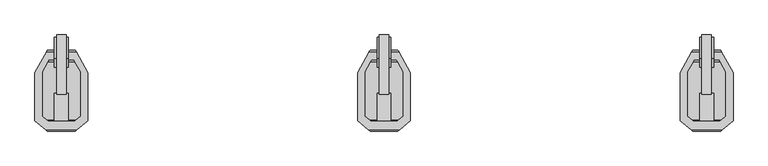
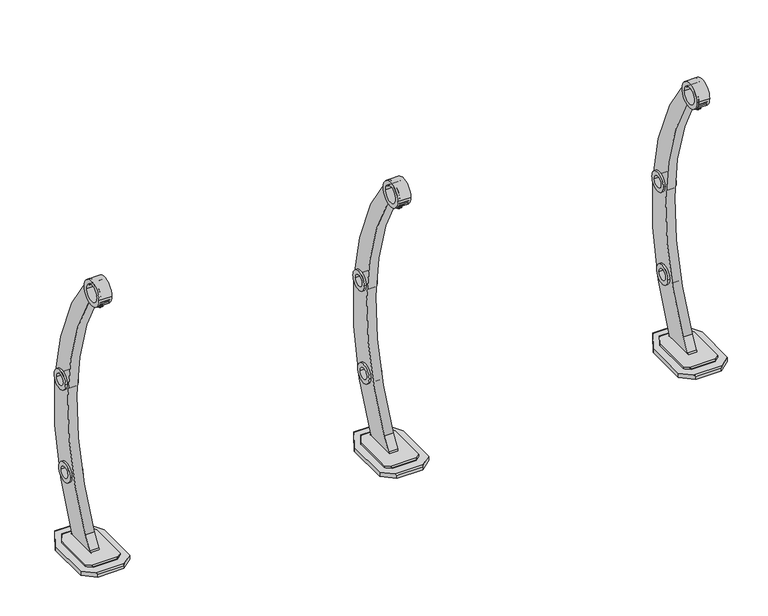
"""IFC4 building model written with IfcOpenShell, lengths in millimetres: railing geometry, Valla Luna-VVL02-1000mm."""

from ifc_helpers import new_model, si_unit, point, frame, frame_2d, origin, place, context, project, spatial, polyline, circle_curve, ellipse_curve, trimmed, segment, composite_curve, outline, extrude, source, transform, mapped, element, save
from ifc_brep_helpers import plane_surface, cylinder_surface, advanced_brep


def railing_890ddbbc(model_context):
    return source(origin(), model_context, "Body", "SolidModel", [
        advanced_brep(
        [(-3962.1742824, -59.8778291, 14.203599), (-3962.1742824, 76.8213068, 14.203599), (-3962.1742824, 76.8213068, 20.5949777), (-3962.1742824, -59.8778291, 20.5949777), (-4078.1742824, -59.8778291, 20.5949777), (-4078.1742824, 76.8213068, 20.5949777), (-4078.1742824, 76.8213068, 14.203599), (-4078.1742824, -59.8778291, 14.203599), (-3980.3520143, -75.1307572, 16.3372695), (-4059.9965506, -75.1307572, 16.3372695), (-4059.9965506, -75.1307572, 14.203599), (-3980.3520143, -75.1307572, 14.203599), (-4058.4734613, 112.362529, 14.203599), (-3981.8751036, 112.362529, 14.203599), (-4058.4734613, 112.362529, 16.3372695), (-3981.8751036, 112.362529, 16.3372695), (-4060.8335475, 108.1048208, 20.5949777), (-3979.5150174, 108.1048208, 20.5949777), (-4065.0706896, -70.873049, 20.5949777), (-3975.2778752, -70.873049, 20.5949777)],
        [
            (0, 1),
            (1, 2),
            (2, 3),
            (3, 0),
            (4, 5),
            (5, 6),
            (6, 7),
            (7, 4),
            (8, 9),
            (9, 10),
            (10, 11),
            (11, 8),
            (0, 11),
            (10, 7),
            (6, 12),
            (12, 13),
            (13, 1),
            (12, 14),
            (14, 15),
            (15, 13),
            (14, 16, ellipse_curve(frame((-4060.8335475, 108.1048208, 16.3372695), z_axis=(0.874619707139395, -0.4848096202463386, 0.0), x_axis=(0.4848096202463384, 0.8746197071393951, 0.0)), 4.868068, 4.2577082)),
            (16, 17),
            (17, 15, ellipse_curve(frame((-3979.5150174, 108.1048208, 16.3372695), z_axis=(-0.8746197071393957, -0.4848096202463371, 0.0), x_axis=(0.4848096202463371, -0.8746197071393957, 0.0)), 4.868068, 4.2577082)),
            (2, 17),
            (16, 5),
            (4, 18),
            (18, 19),
            (19, 3),
            (8, 19, ellipse_curve(frame((-3975.2778752, -70.873049, 16.3372695), z_axis=(-0.6427876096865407, 0.766044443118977, 0.0), x_axis=(0.7660444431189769, 0.6427876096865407, 0.0)), 6.6238181, 4.2577082)),
            (18, 9, ellipse_curve(frame((-4065.0706896, -70.873049, 16.3372695), z_axis=(0.6427876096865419, 0.7660444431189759, 0.0), x_axis=(0.7660444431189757, -0.6427876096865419, 0.0)), 6.6238181, 4.2577082)),
        ],
        [
            plane_surface(frame((-3962.1742824, -75.1307572, 14.203599), z_axis=(1.0, 0.0, 0.0), x_axis=(0.0, 0.0, -1.0))),
            plane_surface(frame((-4078.1742824, -75.1307572, 14.203599), z_axis=(-1.0, 0.0, 0.0), x_axis=(0.0, 0.0, 1.0))),
            plane_surface(frame((-3962.1742824, -75.1307572, 16.3372695), z_axis=(0.0, -1.0, 0.0), x_axis=(-1.0, 0.0, 0.0))),
            plane_surface(frame((-3962.1742824, -75.1307572, 14.203599), z_axis=(0.0, 0.0, -1.0), x_axis=(-1.0, 0.0, 0.0))),
            plane_surface(frame((-3962.1742824, 112.362529, 14.203599), z_axis=(0.0, 1.0, 0.0), x_axis=(-1.0, 0.0, 0.0))),
            cylinder_surface(frame((-4078.1742824, 108.1048208, 16.3372695), z_axis=(1.0, 0.0, 0.0), x_axis=(0.0, 1.0, 0.0)), 4.2577082),
            plane_surface(frame((-3962.1742824, 108.1048208, 20.5949777), z_axis=(0.0, 0.0, 1.0), x_axis=(-1.0, 0.0, 0.0))),
            cylinder_surface(frame((-4078.1742824, -70.873049, 16.3372695), z_axis=(1.0, 0.0, 0.0), x_axis=(0.0, 1.0, 0.0)), 4.2577082),
            plane_surface(frame((-4078.1742824, 76.8213068, 26.9863564), z_axis=(-0.874619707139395, 0.4848096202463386, 0.0), x_axis=(0.0, 0.0, -1.0))),
            plane_surface(frame((-3981.8751036, 112.362529, 26.9863564), z_axis=(0.8746197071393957, 0.4848096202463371, 0.0), x_axis=(0.0, 0.0, -1.0))),
            plane_surface(frame((-3962.1742824, -59.8778291, 26.9863564), z_axis=(0.6427876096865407, -0.766044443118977, 0.0), x_axis=(0.0, 0.0, -1.0))),
            plane_surface(frame((-4059.9965506, -75.1307572, 26.9863564), z_axis=(-0.6427876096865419, -0.7660444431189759, 0.0), x_axis=(0.0, 0.0, -1.0))),
        ],
        [
            (0, [[1, 2, 3, 4]]),
            (1, [[5, 6, 7, 8]]),
            (2, [[9, 10, 11, 12]]),
            (3, [[-1, 13, -11, 14, -7, 15, 16, 17]]),
            (4, [[-16, 18, 19, 20]]),
            (5, [[-19, 21, 22, 23]]),
            (6, [[-3, 24, -22, 25, -5, 26, 27, 28]]),
            (7, [[-9, 29, -27, 30]]),
            (8, [[-6, -25, -21, -18, -15]]),
            (9, [[-2, -17, -20, -23, -24]]),
            (10, [[-4, -28, -29, -12, -13]]),
            (11, [[-8, -14, -10, -30, -26]]),
        ],
    ),
        advanced_brep(
        [(-3938.1742824, 73.6162264, 14.203599), (-3938.1742824, -73.8212018, 14.203599), (-3938.1742824, -73.8212018, 0.0), (-3938.1742824, 73.6162264, 0.0), (-4102.1742824, 73.6162264, 0.0), (-4102.1742824, -73.8212018, 0.0), (-4102.1742824, -73.8212018, 14.203599), (-4102.1742824, 73.6162264, 14.203599), (-3976.975916, 143.6162264, 0.0), (-4063.3726488, 143.6162264, 0.0), (-4063.3726488, 143.6162264, 9.9410744), (-3976.975916, 143.6162264, 9.9410744), (-4065.7354048, 139.3537018, 14.203599), (-3974.6131601, 139.3537018, 14.203599), (-4068.4525278, -102.1171136, 14.203599), (-3971.896037, -102.1171136, 14.203599), (-4063.3726488, -106.3796382, 9.9410744), (-3976.975916, -106.3796382, 9.9410744), (-4063.3726488, -106.3796382, 0.0), (-3976.975916, -106.3796382, 0.0)],
        [
            (0, 1),
            (1, 2),
            (2, 3),
            (3, 0),
            (4, 5),
            (5, 6),
            (6, 7),
            (7, 4),
            (8, 9),
            (9, 10),
            (10, 11),
            (11, 8),
            (10, 12, ellipse_curve(frame((-4065.7354048, 139.3537018, 9.9410744), z_axis=(0.874619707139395, -0.4848096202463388, 0.0), x_axis=(0.4848096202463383, 0.8746197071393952, 0.0)), 4.8735749, 4.2625246)),
            (12, 13),
            (13, 11, ellipse_curve(frame((-3974.6131601, 139.3537018, 9.9410744), z_axis=(-0.8746197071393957, -0.4848096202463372, 0.0), x_axis=(0.4848096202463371, -0.8746197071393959, 0.0)), 4.8735749, 4.2625246)),
            (0, 13),
            (12, 7),
            (6, 14),
            (14, 15),
            (15, 1),
            (14, 16, ellipse_curve(frame((-4068.4525278, -102.1171136, 9.9410744), z_axis=(0.6427876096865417, 0.766044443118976, 0.0), x_axis=(0.766044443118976, -0.6427876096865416, 0.0)), 6.6313111, 4.2625246)),
            (16, 17),
            (17, 15, ellipse_curve(frame((-3971.896037, -102.1171136, 9.9410744), z_axis=(-0.6427876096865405, 0.7660444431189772, 0.0), x_axis=(0.766044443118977, 0.6427876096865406, 0.0)), 6.6313111, 4.2625246)),
            (16, 18),
            (18, 19),
            (19, 17),
            (2, 19),
            (18, 5),
            (4, 9),
            (8, 3),
        ],
        [
            plane_surface(frame((-3938.1742824, 143.6162264, 9.9410744), z_axis=(1.0, 0.0, 0.0), x_axis=(0.0, 0.0, 1.0))),
            plane_surface(frame((-4102.1742824, 143.6162264, 9.9410744), z_axis=(-1.0, 0.0, 0.0), x_axis=(0.0, 0.0, -1.0))),
            plane_surface(frame((-3938.1742824, 143.6162264, 0.0), z_axis=(0.0, 1.0, 0.0), x_axis=(-1.0, 0.0, 0.0))),
            cylinder_surface(frame((-4102.1742824, 139.3537018, 9.9410744), z_axis=(1.0, 0.0, 0.0), x_axis=(0.0, 1.0, 0.0)), 4.2625246),
            plane_surface(frame((-3938.1742824, 139.3537018, 14.203599), z_axis=(0.0, 0.0, 1.0), x_axis=(-1.0, 0.0, 0.0))),
            cylinder_surface(frame((-4102.1742824, -102.1171136, 9.9410744), z_axis=(1.0, 0.0, 0.0), x_axis=(0.0, 1.0, 0.0)), 4.2625246),
            plane_surface(frame((-3938.1742824, -106.3796382, 9.9410744), z_axis=(0.0, -1.0, 0.0), x_axis=(-1.0, 0.0, 0.0))),
            plane_surface(frame((-3938.1742824, -106.3796382, 0.0), z_axis=(0.0, 0.0, -1.0), x_axis=(-1.0, 0.0, 0.0))),
            plane_surface(frame((-4102.1742824, 73.6162264, 56.1063833), z_axis=(-0.874619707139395, 0.4848096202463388, 0.0), x_axis=(0.0, 0.0, -1.0))),
            plane_surface(frame((-3976.975916, 143.6162264, 56.1063833), z_axis=(0.8746197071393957, 0.4848096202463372, 0.0), x_axis=(0.0, 0.0, -1.0))),
            plane_surface(frame((-4063.3726488, -106.3796382, 56.1063833), z_axis=(-0.6427876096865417, -0.766044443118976, 0.0), x_axis=(0.0, 0.0, -1.0))),
            plane_surface(frame((-3938.1742824, -73.8212018, 56.1063833), z_axis=(0.6427876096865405, -0.7660444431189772, 0.0), x_axis=(0.0, 0.0, -1.0))),
        ],
        [
            (0, [[1, 2, 3, 4]]),
            (1, [[5, 6, 7, 8]]),
            (2, [[9, 10, 11, 12]]),
            (3, [[-11, 13, 14, 15]]),
            (4, [[-1, 16, -14, 17, -7, 18, 19, 20]]),
            (5, [[-19, 21, 22, 23]]),
            (6, [[-22, 24, 25, 26]]),
            (7, [[-3, 27, -25, 28, -5, 29, -9, 30]]),
            (8, [[-8, -17, -13, -10, -29]]),
            (9, [[-4, -30, -12, -15, -16]]),
            (10, [[-6, -28, -24, -21, -18]]),
            (11, [[-2, -20, -23, -26, -27]]),
        ],
    ),
        extrude(outline(composite_curve([segment(trimmed(circle_curve(frame_2d((-32.5175521, 952.3924915)), 42.6132051), [point((-75.1307572, 952.3924915))], [point((10.0956531, 952.3924915))], False, "CARTESIAN"), True, "CONTINUOUS"), segment(trimmed(circle_curve(frame_2d((-32.5175521, 952.3924915)), 42.6132051), [point((10.0956531, 952.3924915))], [point((-75.1307572, 952.3924915))], False, "CARTESIAN"), True, "CONTINUOUS")], self_intersect=False), holes=[composite_curve([segment(trimmed(circle_curve(frame_2d((-32.5175521, 952.3924915)), 28.4096062), [point((-60.9271582, 952.3924915))], [point((-4.1079459, 952.3924915))], True, "CARTESIAN"), True, "CONTINUOUS"), segment(trimmed(circle_curve(frame_2d((-32.5175521, 952.3924915)), 28.4096062), [point((-4.1079459, 952.3924915))], [point((-60.9271582, 952.3924915))], True, "CARTESIAN"), True, "CONTINUOUS")], self_intersect=False)]), frame((-4041.7542824, 0.0, 0.0), z_axis=(1.0, 0.0, 0.0), x_axis=(0.0, 1.0, 0.0)), (0.0, 0.0, 1.0), 43.16),
        extrude(outline(composite_curve([segment(trimmed(circle_curve(frame_2d((-35.2003219, 907.5222066)), 2.3654817), [point((-35.415134, 909.8779144))], [point((-37.4829394, 908.1428196))], True, "CARTESIAN"), True, "CONTINUOUS"), segment(polyline([(-37.4829394, 908.1428196), (-38.2257606, 905.4107199)]), True, "CONTINUOUS"), segment(trimmed(circle_curve(frame_2d((-40.4091972, 906.4191341)), 2.4050561), [point((-38.2257606, 905.4107199))], [point((-41.0401931, 904.0983285))], False, "CARTESIAN"), True, "CONTINUOUS"), segment(polyline([(-41.0401931, 904.0983285), (-48.8524133, 906.2223662)]), True, "CONTINUOUS"), segment(trimmed(circle_curve(frame_2d((-48.2214175, 908.5431718)), 2.4050561), [point((-48.8524133, 906.2223662))], [point((-50.6148686, 908.7791518))], False, "CARTESIAN"), True, "CONTINUOUS"), segment(polyline([(-50.6148686, 908.7791518), (-49.8720473, 911.5112516)]), True, "CONTINUOUS"), segment(trimmed(circle_curve(frame_2d((-52.1546649, 912.1318646)), 2.3654817), [point((-49.8720473, 911.5112516))], [point((-50.3918957, 913.7092511))], True, "CARTESIAN"), True, "CONTINUOUS"), segment(trimmed(circle_curve(frame_2d((-32.5175521, 952.3924915)), 42.6132051), [point((-50.3918957, 913.7092511))], [point((-35.415134, 909.8779144))], True, "CARTESIAN"), True, "CONTINUOUS")], self_intersect=False)), frame((-4026.3942824, 0.0, 0.0), z_axis=(1.0, 0.0, 0.0), x_axis=(0.0, 1.0, 0.0)), (0.0, 0.0, 1.0), 12.4397),
        extrude(outline(composite_curve([segment(trimmed(circle_curve(frame_2d((151.7824529, 535.4983185)), 33.0237288), [point((118.7587241, 535.4983185))], [point((184.8061818, 535.4983185))], False, "CARTESIAN"), True, "CONTINUOUS"), segment(trimmed(circle_curve(frame_2d((151.7824529, 535.4983185)), 33.0237288), [point((184.8061818, 535.4983185))], [point((118.7587241, 535.4983185))], False, "CARTESIAN"), True, "CONTINUOUS")], self_intersect=False), holes=[composite_curve([segment(trimmed(circle_curve(frame_2d((151.7824529, 535.4983185)), 18.8201299), [point((132.9623231, 535.4983185))], [point((170.6025828, 535.4983185))], True, "CARTESIAN"), True, "CONTINUOUS"), segment(trimmed(circle_curve(frame_2d((151.7824529, 535.4983185)), 18.8201299), [point((170.6025828, 535.4983185))], [point((132.9623231, 535.4983185))], True, "CARTESIAN"), True, "CONTINUOUS")], self_intersect=False)]), frame((-4041.7542824, 0.0, 0.0), z_axis=(1.0, 0.0, 0.0), x_axis=(0.0, 1.0, 0.0)), (0.0, 0.0, 1.0), 43.16),
        extrude(outline(composite_curve([segment(trimmed(circle_curve(frame_2d((124.7936883, 223.0046918)), 33.0237288), [point((91.7699595, 223.0046918))], [point((157.8174172, 223.0046918))], False, "CARTESIAN"), True, "CONTINUOUS"), segment(trimmed(circle_curve(frame_2d((124.7936883, 223.0046918)), 33.0237288), [point((157.8174172, 223.0046918))], [point((91.7699595, 223.0046918))], False, "CARTESIAN"), True, "CONTINUOUS")], self_intersect=False), holes=[composite_curve([segment(trimmed(circle_curve(frame_2d((124.7936883, 223.0046918)), 18.8201299), [point((105.9735585, 223.0046918))], [point((143.6138182, 223.0046918))], True, "CARTESIAN"), True, "CONTINUOUS"), segment(trimmed(circle_curve(frame_2d((124.7936883, 223.0046918)), 18.8201299), [point((143.6138182, 223.0046918))], [point((105.9735585, 223.0046918))], True, "CARTESIAN"), True, "CONTINUOUS")], self_intersect=False)]), frame((-4041.7542824, 0.0, 0.0), z_axis=(1.0, 0.0, 0.0), x_axis=(0.0, 1.0, 0.0)), (0.0, 0.0, 1.0), 43.16),
        extrude(outline(composite_curve([segment(trimmed(circle_curve(frame_2d((-32.5175521, 951.7927114)), 42.6132051), [point((-19.2244118, 911.3059521))], [point((0.6146997, 978.5908296))], False, "CARTESIAN"), True, "CONTINUOUS"), segment(trimmed(circle_curve(frame_2d((-669.8242293, 431.6687279)), 865.2237531), [point((0.6146997, 978.5908296))], [point((94.6092344, 26.3865762))], False, "CARTESIAN"), True, "CONTINUOUS"), segment(trimmed(circle_curve(frame_2d((99.8588247, 25.1220185)), 5.3997504), [point((94.6092344, 26.3865762))], [point((98.1493714, 20.0))], True, "CARTESIAN"), True, "CONTINUOUS"), segment(polyline([(98.1493714, 20.0), (-18.2389933, 20.0)]), True, "CONTINUOUS"), segment(trimmed(circle_curve(frame_2d((-18.9534231, 30.8838265)), 10.9072494), [point((-18.2389933, 20.0))], [point((-9.7913121, 24.9657347))], True, "CARTESIAN"), True, "CONTINUOUS"), segment(trimmed(circle_curve(frame_2d((-548.3550434, 372.840762)), 641.1457926), [point((-9.7913121, 24.9657347))], [point((15.0710067, 66.868519))], True, "CARTESIAN"), True, "CONTINUOUS"), segment(trimmed(circle_curve(frame_2d((-721.6327305, 466.940356)), 838.3256355), [point((15.0710067, 66.868519))], [point((-7.3307436, 905.7598436))], True, "CARTESIAN"), True, "CONTINUOUS"), segment(trimmed(circle_curve(frame_2d((-16.9904255, 900.5706701)), 10.9652622), [point((-7.3307436, 905.7598436))], [point((-19.2244118, 911.3059521))], True, "CARTESIAN"), True, "CONTINUOUS")], self_intersect=False), holes=[composite_curve([segment(trimmed(circle_curve(frame_2d((-32.5175521, 951.7927114)), 28.4096062), [point((-60.9271582, 951.7927114))], [point((-4.1079459, 951.7927114))], True, "CARTESIAN"), True, "CONTINUOUS"), segment(trimmed(circle_curve(frame_2d((-32.5175521, 951.7927114)), 28.4096062), [point((-4.1079459, 951.7927114))], [point((-60.9271582, 951.7927114))], True, "CARTESIAN"), True, "CONTINUOUS")], self_intersect=False), composite_curve([segment(trimmed(circle_curve(frame_2d((151.7824529, 534.8985383)), 18.8201299), [point((132.9623231, 534.8985383))], [point((170.6025828, 534.8985383))], True, "CARTESIAN"), True, "CONTINUOUS"), segment(trimmed(circle_curve(frame_2d((151.7824529, 534.8985383)), 18.8201299), [point((170.6025828, 534.8985383))], [point((132.9623231, 534.8985383))], True, "CARTESIAN"), True, "CONTINUOUS")], self_intersect=False), composite_curve([segment(trimmed(circle_curve(frame_2d((124.7936883, 222.4049116)), 18.8201299), [point((105.9735585, 222.4049116))], [point((143.6138182, 222.4049116))], True, "CARTESIAN"), True, "CONTINUOUS"), segment(trimmed(circle_curve(frame_2d((124.7936883, 222.4049116)), 18.8201299), [point((143.6138182, 222.4049116))], [point((105.9735585, 222.4049116))], True, "CARTESIAN"), True, "CONTINUOUS")], self_intersect=False)]), frame((-4035.1742824, 0.0, 0.0), z_axis=(1.0, 0.0, 0.0), x_axis=(0.0, 1.0, 0.0)), (0.0, 0.0, 1.0), 30.0),
        advanced_brep(
        [(-4962.1742824, -59.8778291, 14.203599), (-4962.1742824, 76.8213068, 14.203599), (-4962.1742824, 76.8213068, 20.5949777), (-4962.1742824, -59.8778291, 20.5949777), (-5078.1742824, -59.8778291, 20.5949777), (-5078.1742824, 76.8213068, 20.5949777), (-5078.1742824, 76.8213068, 14.203599), (-5078.1742824, -59.8778291, 14.203599), (-4980.3520143, -75.1307572, 16.3372695), (-5059.9965506, -75.1307572, 16.3372695), (-5059.9965506, -75.1307572, 14.203599), (-4980.3520143, -75.1307572, 14.203599), (-5058.4734613, 112.362529, 14.203599), (-4981.8751036, 112.362529, 14.203599), (-5058.4734613, 112.362529, 16.3372695), (-4981.8751036, 112.362529, 16.3372695), (-5060.8335475, 108.1048208, 20.5949777), (-4979.5150174, 108.1048208, 20.5949777), (-5065.0706896, -70.873049, 20.5949777), (-4975.2778752, -70.873049, 20.5949777)],
        [
            (0, 1),
            (1, 2),
            (2, 3),
            (3, 0),
            (4, 5),
            (5, 6),
            (6, 7),
            (7, 4),
            (8, 9),
            (9, 10),
            (10, 11),
            (11, 8),
            (0, 11),
            (10, 7),
            (6, 12),
            (12, 13),
            (13, 1),
            (12, 14),
            (14, 15),
            (15, 13),
            (14, 16, ellipse_curve(frame((-5060.8335475, 108.1048208, 16.3372695), z_axis=(0.874619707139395, -0.4848096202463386, 0.0), x_axis=(0.4848096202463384, 0.8746197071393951, 0.0)), 4.868068, 4.2577082)),
            (16, 17),
            (17, 15, ellipse_curve(frame((-4979.5150174, 108.1048208, 16.3372695), z_axis=(-0.8746197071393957, -0.4848096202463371, 0.0), x_axis=(0.4848096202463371, -0.8746197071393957, 0.0)), 4.868068, 4.2577082)),
            (2, 17),
            (16, 5),
            (4, 18),
            (18, 19),
            (19, 3),
            (8, 19, ellipse_curve(frame((-4975.2778752, -70.873049, 16.3372695), z_axis=(-0.6427876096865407, 0.766044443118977, 0.0), x_axis=(0.7660444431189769, 0.6427876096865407, 0.0)), 6.6238181, 4.2577082)),
            (18, 9, ellipse_curve(frame((-5065.0706896, -70.873049, 16.3372695), z_axis=(0.6427876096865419, 0.7660444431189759, 0.0), x_axis=(0.7660444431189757, -0.6427876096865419, 0.0)), 6.6238181, 4.2577082)),
        ],
        [
            plane_surface(frame((-4962.1742824, -75.1307572, 14.203599), z_axis=(1.0, 0.0, 0.0), x_axis=(0.0, 0.0, -1.0))),
            plane_surface(frame((-5078.1742824, -75.1307572, 14.203599), z_axis=(-1.0, 0.0, 0.0), x_axis=(0.0, 0.0, 1.0))),
            plane_surface(frame((-4962.1742824, -75.1307572, 16.3372695), z_axis=(0.0, -1.0, 0.0), x_axis=(-1.0, 0.0, 0.0))),
            plane_surface(frame((-4962.1742824, -75.1307572, 14.203599), z_axis=(0.0, 0.0, -1.0), x_axis=(-1.0, 0.0, 0.0))),
            plane_surface(frame((-4962.1742824, 112.362529, 14.203599), z_axis=(0.0, 1.0, 0.0), x_axis=(-1.0, 0.0, 0.0))),
            cylinder_surface(frame((-5078.1742824, 108.1048208, 16.3372695), z_axis=(1.0, 0.0, 0.0), x_axis=(0.0, 1.0, 0.0)), 4.2577082),
            plane_surface(frame((-4962.1742824, 108.1048208, 20.5949777), z_axis=(0.0, 0.0, 1.0), x_axis=(-1.0, 0.0, 0.0))),
            cylinder_surface(frame((-5078.1742824, -70.873049, 16.3372695), z_axis=(1.0, 0.0, 0.0), x_axis=(0.0, 1.0, 0.0)), 4.2577082),
            plane_surface(frame((-5078.1742824, 76.8213068, 26.9863564), z_axis=(-0.874619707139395, 0.4848096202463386, 0.0), x_axis=(0.0, 0.0, -1.0))),
            plane_surface(frame((-4981.8751036, 112.362529, 26.9863564), z_axis=(0.8746197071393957, 0.4848096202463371, 0.0), x_axis=(0.0, 0.0, -1.0))),
            plane_surface(frame((-4962.1742824, -59.8778291, 26.9863564), z_axis=(0.6427876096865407, -0.766044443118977, 0.0), x_axis=(0.0, 0.0, -1.0))),
            plane_surface(frame((-5059.9965506, -75.1307572, 26.9863564), z_axis=(-0.6427876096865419, -0.7660444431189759, 0.0), x_axis=(0.0, 0.0, -1.0))),
        ],
        [
            (0, [[1, 2, 3, 4]]),
            (1, [[5, 6, 7, 8]]),
            (2, [[9, 10, 11, 12]]),
            (3, [[-1, 13, -11, 14, -7, 15, 16, 17]]),
            (4, [[-16, 18, 19, 20]]),
            (5, [[-19, 21, 22, 23]]),
            (6, [[-3, 24, -22, 25, -5, 26, 27, 28]]),
            (7, [[-9, 29, -27, 30]]),
            (8, [[-6, -25, -21, -18, -15]]),
            (9, [[-2, -17, -20, -23, -24]]),
            (10, [[-4, -28, -29, -12, -13]]),
            (11, [[-8, -14, -10, -30, -26]]),
        ],
    ),
        advanced_brep(
        [(-4938.1742824, 73.6162264, 14.203599), (-4938.1742824, -73.8212018, 14.203599), (-4938.1742824, -73.8212018, 0.0), (-4938.1742824, 73.6162264, 0.0), (-5102.1742824, 73.6162264, 0.0), (-5102.1742824, -73.8212018, 0.0), (-5102.1742824, -73.8212018, 14.203599), (-5102.1742824, 73.6162264, 14.203599), (-4976.975916, 143.6162264, 0.0), (-5063.3726488, 143.6162264, 0.0), (-5063.3726488, 143.6162264, 9.9410744), (-4976.975916, 143.6162264, 9.9410744), (-5065.7354048, 139.3537018, 14.203599), (-4974.6131601, 139.3537018, 14.203599), (-5068.4525278, -102.1171136, 14.203599), (-4971.896037, -102.1171136, 14.203599), (-5063.3726488, -106.3796382, 9.9410744), (-4976.975916, -106.3796382, 9.9410744), (-5063.3726488, -106.3796382, 0.0), (-4976.975916, -106.3796382, 0.0)],
        [
            (0, 1),
            (1, 2),
            (2, 3),
            (3, 0),
            (4, 5),
            (5, 6),
            (6, 7),
            (7, 4),
            (8, 9),
            (9, 10),
            (10, 11),
            (11, 8),
            (10, 12, ellipse_curve(frame((-5065.7354048, 139.3537018, 9.9410744), z_axis=(0.874619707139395, -0.4848096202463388, 0.0), x_axis=(0.4848096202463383, 0.8746197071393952, 0.0)), 4.8735749, 4.2625246)),
            (12, 13),
            (13, 11, ellipse_curve(frame((-4974.6131601, 139.3537018, 9.9410744), z_axis=(-0.8746197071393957, -0.4848096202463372, 0.0), x_axis=(0.4848096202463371, -0.8746197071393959, 0.0)), 4.8735749, 4.2625246)),
            (0, 13),
            (12, 7),
            (6, 14),
            (14, 15),
            (15, 1),
            (14, 16, ellipse_curve(frame((-5068.4525278, -102.1171136, 9.9410744), z_axis=(0.6427876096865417, 0.766044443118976, 0.0), x_axis=(0.766044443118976, -0.6427876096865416, 0.0)), 6.6313111, 4.2625246)),
            (16, 17),
            (17, 15, ellipse_curve(frame((-4971.896037, -102.1171136, 9.9410744), z_axis=(-0.6427876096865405, 0.7660444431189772, 0.0), x_axis=(0.766044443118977, 0.6427876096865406, 0.0)), 6.6313111, 4.2625246)),
            (16, 18),
            (18, 19),
            (19, 17),
            (2, 19),
            (18, 5),
            (4, 9),
            (8, 3),
        ],
        [
            plane_surface(frame((-4938.1742824, 143.6162264, 9.9410744), z_axis=(1.0, 0.0, 0.0), x_axis=(0.0, 0.0, 1.0))),
            plane_surface(frame((-5102.1742824, 143.6162264, 9.9410744), z_axis=(-1.0, 0.0, 0.0), x_axis=(0.0, 0.0, -1.0))),
            plane_surface(frame((-4938.1742824, 143.6162264, 0.0), z_axis=(0.0, 1.0, 0.0), x_axis=(-1.0, 0.0, 0.0))),
            cylinder_surface(frame((-5102.1742824, 139.3537018, 9.9410744), z_axis=(1.0, 0.0, 0.0), x_axis=(0.0, 1.0, 0.0)), 4.2625246),
            plane_surface(frame((-4938.1742824, 139.3537018, 14.203599), z_axis=(0.0, 0.0, 1.0), x_axis=(-1.0, 0.0, 0.0))),
            cylinder_surface(frame((-5102.1742824, -102.1171136, 9.9410744), z_axis=(1.0, 0.0, 0.0), x_axis=(0.0, 1.0, 0.0)), 4.2625246),
            plane_surface(frame((-4938.1742824, -106.3796382, 9.9410744), z_axis=(0.0, -1.0, 0.0), x_axis=(-1.0, 0.0, 0.0))),
            plane_surface(frame((-4938.1742824, -106.3796382, 0.0), z_axis=(0.0, 0.0, -1.0), x_axis=(-1.0, 0.0, 0.0))),
            plane_surface(frame((-5102.1742824, 73.6162264, 56.1063833), z_axis=(-0.874619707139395, 0.4848096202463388, 0.0), x_axis=(0.0, 0.0, -1.0))),
            plane_surface(frame((-4976.975916, 143.6162264, 56.1063833), z_axis=(0.8746197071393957, 0.4848096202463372, 0.0), x_axis=(0.0, 0.0, -1.0))),
            plane_surface(frame((-5063.3726488, -106.3796382, 56.1063833), z_axis=(-0.6427876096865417, -0.766044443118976, 0.0), x_axis=(0.0, 0.0, -1.0))),
            plane_surface(frame((-4938.1742824, -73.8212018, 56.1063833), z_axis=(0.6427876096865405, -0.7660444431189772, 0.0), x_axis=(0.0, 0.0, -1.0))),
        ],
        [
            (0, [[1, 2, 3, 4]]),
            (1, [[5, 6, 7, 8]]),
            (2, [[9, 10, 11, 12]]),
            (3, [[-11, 13, 14, 15]]),
            (4, [[-1, 16, -14, 17, -7, 18, 19, 20]]),
            (5, [[-19, 21, 22, 23]]),
            (6, [[-22, 24, 25, 26]]),
            (7, [[-3, 27, -25, 28, -5, 29, -9, 30]]),
            (8, [[-8, -17, -13, -10, -29]]),
            (9, [[-4, -30, -12, -15, -16]]),
            (10, [[-6, -28, -24, -21, -18]]),
            (11, [[-2, -20, -23, -26, -27]]),
        ],
    ),
        extrude(outline(composite_curve([segment(trimmed(circle_curve(frame_2d((-32.5175521, 952.3924915)), 42.6132051), [point((-75.1307572, 952.3924915))], [point((10.0956531, 952.3924915))], False, "CARTESIAN"), True, "CONTINUOUS"), segment(trimmed(circle_curve(frame_2d((-32.5175521, 952.3924915)), 42.6132051), [point((10.0956531, 952.3924915))], [point((-75.1307572, 952.3924915))], False, "CARTESIAN"), True, "CONTINUOUS")], self_intersect=False), holes=[composite_curve([segment(trimmed(circle_curve(frame_2d((-32.5175521, 952.3924915)), 28.4096062), [point((-60.9271582, 952.3924915))], [point((-4.1079459, 952.3924915))], True, "CARTESIAN"), True, "CONTINUOUS"), segment(trimmed(circle_curve(frame_2d((-32.5175521, 952.3924915)), 28.4096062), [point((-4.1079459, 952.3924915))], [point((-60.9271582, 952.3924915))], True, "CARTESIAN"), True, "CONTINUOUS")], self_intersect=False)]), frame((-5041.7542824, 0.0, 0.0), z_axis=(1.0, 0.0, 0.0), x_axis=(0.0, 1.0, 0.0)), (0.0, 0.0, 1.0), 43.16),
        extrude(outline(composite_curve([segment(trimmed(circle_curve(frame_2d((-35.2003219, 907.5222066)), 2.3654817), [point((-35.415134, 909.8779144))], [point((-37.4829394, 908.1428196))], True, "CARTESIAN"), True, "CONTINUOUS"), segment(polyline([(-37.4829394, 908.1428196), (-38.2257606, 905.4107199)]), True, "CONTINUOUS"), segment(trimmed(circle_curve(frame_2d((-40.4091972, 906.4191341)), 2.4050561), [point((-38.2257606, 905.4107199))], [point((-41.0401931, 904.0983285))], False, "CARTESIAN"), True, "CONTINUOUS"), segment(polyline([(-41.0401931, 904.0983285), (-48.8524133, 906.2223662)]), True, "CONTINUOUS"), segment(trimmed(circle_curve(frame_2d((-48.2214175, 908.5431718)), 2.4050561), [point((-48.8524133, 906.2223662))], [point((-50.6148686, 908.7791518))], False, "CARTESIAN"), True, "CONTINUOUS"), segment(polyline([(-50.6148686, 908.7791518), (-49.8720473, 911.5112516)]), True, "CONTINUOUS"), segment(trimmed(circle_curve(frame_2d((-52.1546649, 912.1318646)), 2.3654817), [point((-49.8720473, 911.5112516))], [point((-50.3918957, 913.7092511))], True, "CARTESIAN"), True, "CONTINUOUS"), segment(trimmed(circle_curve(frame_2d((-32.5175521, 952.3924915)), 42.6132051), [point((-50.3918957, 913.7092511))], [point((-35.415134, 909.8779144))], True, "CARTESIAN"), True, "CONTINUOUS")], self_intersect=False)), frame((-5026.3942824, 0.0, 0.0), z_axis=(1.0, 0.0, 0.0), x_axis=(0.0, 1.0, 0.0)), (0.0, 0.0, 1.0), 12.4397),
        extrude(outline(composite_curve([segment(trimmed(circle_curve(frame_2d((151.7824529, 535.4983185)), 33.0237288), [point((118.7587241, 535.4983185))], [point((184.8061818, 535.4983185))], False, "CARTESIAN"), True, "CONTINUOUS"), segment(trimmed(circle_curve(frame_2d((151.7824529, 535.4983185)), 33.0237288), [point((184.8061818, 535.4983185))], [point((118.7587241, 535.4983185))], False, "CARTESIAN"), True, "CONTINUOUS")], self_intersect=False), holes=[composite_curve([segment(trimmed(circle_curve(frame_2d((151.7824529, 535.4983185)), 18.8201299), [point((132.9623231, 535.4983185))], [point((170.6025828, 535.4983185))], True, "CARTESIAN"), True, "CONTINUOUS"), segment(trimmed(circle_curve(frame_2d((151.7824529, 535.4983185)), 18.8201299), [point((170.6025828, 535.4983185))], [point((132.9623231, 535.4983185))], True, "CARTESIAN"), True, "CONTINUOUS")], self_intersect=False)]), frame((-5041.7542824, 0.0, 0.0), z_axis=(1.0, 0.0, 0.0), x_axis=(0.0, 1.0, 0.0)), (0.0, 0.0, 1.0), 43.16),
        extrude(outline(composite_curve([segment(trimmed(circle_curve(frame_2d((124.7936883, 223.0046918)), 33.0237288), [point((91.7699595, 223.0046918))], [point((157.8174172, 223.0046918))], False, "CARTESIAN"), True, "CONTINUOUS"), segment(trimmed(circle_curve(frame_2d((124.7936883, 223.0046918)), 33.0237288), [point((157.8174172, 223.0046918))], [point((91.7699595, 223.0046918))], False, "CARTESIAN"), True, "CONTINUOUS")], self_intersect=False), holes=[composite_curve([segment(trimmed(circle_curve(frame_2d((124.7936883, 223.0046918)), 18.8201299), [point((105.9735585, 223.0046918))], [point((143.6138182, 223.0046918))], True, "CARTESIAN"), True, "CONTINUOUS"), segment(trimmed(circle_curve(frame_2d((124.7936883, 223.0046918)), 18.8201299), [point((143.6138182, 223.0046918))], [point((105.9735585, 223.0046918))], True, "CARTESIAN"), True, "CONTINUOUS")], self_intersect=False)]), frame((-5041.7542824, 0.0, 0.0), z_axis=(1.0, 0.0, 0.0), x_axis=(0.0, 1.0, 0.0)), (0.0, 0.0, 1.0), 43.16),
        extrude(outline(composite_curve([segment(trimmed(circle_curve(frame_2d((-32.5175521, 951.7927114)), 42.6132051), [point((-19.2244118, 911.3059521))], [point((0.6146997, 978.5908296))], False, "CARTESIAN"), True, "CONTINUOUS"), segment(trimmed(circle_curve(frame_2d((-669.8242293, 431.6687279)), 865.2237531), [point((0.6146997, 978.5908296))], [point((94.6092344, 26.3865762))], False, "CARTESIAN"), True, "CONTINUOUS"), segment(trimmed(circle_curve(frame_2d((99.8588247, 25.1220185)), 5.3997504), [point((94.6092344, 26.3865762))], [point((98.1493714, 20.0))], True, "CARTESIAN"), True, "CONTINUOUS"), segment(polyline([(98.1493714, 20.0), (-18.2389933, 20.0)]), True, "CONTINUOUS"), segment(trimmed(circle_curve(frame_2d((-18.9534231, 30.8838265)), 10.9072494), [point((-18.2389933, 20.0))], [point((-9.7913121, 24.9657347))], True, "CARTESIAN"), True, "CONTINUOUS"), segment(trimmed(circle_curve(frame_2d((-548.3550434, 372.840762)), 641.1457926), [point((-9.7913121, 24.9657347))], [point((15.0710067, 66.868519))], True, "CARTESIAN"), True, "CONTINUOUS"), segment(trimmed(circle_curve(frame_2d((-721.6327305, 466.940356)), 838.3256355), [point((15.0710067, 66.868519))], [point((-7.3307436, 905.7598436))], True, "CARTESIAN"), True, "CONTINUOUS"), segment(trimmed(circle_curve(frame_2d((-16.9904255, 900.5706701)), 10.9652622), [point((-7.3307436, 905.7598436))], [point((-19.2244118, 911.3059521))], True, "CARTESIAN"), True, "CONTINUOUS")], self_intersect=False), holes=[composite_curve([segment(trimmed(circle_curve(frame_2d((-32.5175521, 951.7927114)), 28.4096062), [point((-60.9271582, 951.7927114))], [point((-4.1079459, 951.7927114))], True, "CARTESIAN"), True, "CONTINUOUS"), segment(trimmed(circle_curve(frame_2d((-32.5175521, 951.7927114)), 28.4096062), [point((-4.1079459, 951.7927114))], [point((-60.9271582, 951.7927114))], True, "CARTESIAN"), True, "CONTINUOUS")], self_intersect=False), composite_curve([segment(trimmed(circle_curve(frame_2d((151.7824529, 534.8985383)), 18.8201299), [point((132.9623231, 534.8985383))], [point((170.6025828, 534.8985383))], True, "CARTESIAN"), True, "CONTINUOUS"), segment(trimmed(circle_curve(frame_2d((151.7824529, 534.8985383)), 18.8201299), [point((170.6025828, 534.8985383))], [point((132.9623231, 534.8985383))], True, "CARTESIAN"), True, "CONTINUOUS")], self_intersect=False), composite_curve([segment(trimmed(circle_curve(frame_2d((124.7936883, 222.4049116)), 18.8201299), [point((105.9735585, 222.4049116))], [point((143.6138182, 222.4049116))], True, "CARTESIAN"), True, "CONTINUOUS"), segment(trimmed(circle_curve(frame_2d((124.7936883, 222.4049116)), 18.8201299), [point((143.6138182, 222.4049116))], [point((105.9735585, 222.4049116))], True, "CARTESIAN"), True, "CONTINUOUS")], self_intersect=False)]), frame((-5035.1742824, 0.0, 0.0), z_axis=(1.0, 0.0, 0.0), x_axis=(0.0, 1.0, 0.0)), (0.0, 0.0, 1.0), 30.0),
        advanced_brep(
        [(-5962.1742824, -59.8778291, 14.203599), (-5962.1742824, 76.8213068, 14.203599), (-5962.1742824, 76.8213068, 20.5949777), (-5962.1742824, -59.8778291, 20.5949777), (-6078.1742824, -59.8778291, 20.5949777), (-6078.1742824, 76.8213068, 20.5949777), (-6078.1742824, 76.8213068, 14.203599), (-6078.1742824, -59.8778291, 14.203599), (-5980.3520143, -75.1307572, 16.3372695), (-6059.9965506, -75.1307572, 16.3372695), (-6059.9965506, -75.1307572, 14.203599), (-5980.3520143, -75.1307572, 14.203599), (-6058.4734613, 112.362529, 14.203599), (-5981.8751036, 112.362529, 14.203599), (-6058.4734613, 112.362529, 16.3372695), (-5981.8751036, 112.362529, 16.3372695), (-6060.8335475, 108.1048208, 20.5949777), (-5979.5150174, 108.1048208, 20.5949777), (-6065.0706896, -70.873049, 20.5949777), (-5975.2778752, -70.873049, 20.5949777)],
        [
            (0, 1),
            (1, 2),
            (2, 3),
            (3, 0),
            (4, 5),
            (5, 6),
            (6, 7),
            (7, 4),
            (8, 9),
            (9, 10),
            (10, 11),
            (11, 8),
            (0, 11),
            (10, 7),
            (6, 12),
            (12, 13),
            (13, 1),
            (12, 14),
            (14, 15),
            (15, 13),
            (14, 16, ellipse_curve(frame((-6060.8335475, 108.1048208, 16.3372695), z_axis=(0.874619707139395, -0.4848096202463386, 0.0), x_axis=(0.4848096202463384, 0.8746197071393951, 0.0)), 4.868068, 4.2577082)),
            (16, 17),
            (17, 15, ellipse_curve(frame((-5979.5150174, 108.1048208, 16.3372695), z_axis=(-0.8746197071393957, -0.4848096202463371, 0.0), x_axis=(0.4848096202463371, -0.8746197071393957, 0.0)), 4.868068, 4.2577082)),
            (2, 17),
            (16, 5),
            (4, 18),
            (18, 19),
            (19, 3),
            (8, 19, ellipse_curve(frame((-5975.2778752, -70.873049, 16.3372695), z_axis=(-0.6427876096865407, 0.766044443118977, 0.0), x_axis=(0.7660444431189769, 0.6427876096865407, 0.0)), 6.6238181, 4.2577082)),
            (18, 9, ellipse_curve(frame((-6065.0706896, -70.873049, 16.3372695), z_axis=(0.6427876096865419, 0.7660444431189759, 0.0), x_axis=(0.7660444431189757, -0.6427876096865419, 0.0)), 6.6238181, 4.2577082)),
        ],
        [
            plane_surface(frame((-5962.1742824, -75.1307572, 14.203599), z_axis=(1.0, 0.0, 0.0), x_axis=(0.0, 0.0, -1.0))),
            plane_surface(frame((-6078.1742824, -75.1307572, 14.203599), z_axis=(-1.0, 0.0, 0.0), x_axis=(0.0, 0.0, 1.0))),
            plane_surface(frame((-5962.1742824, -75.1307572, 16.3372695), z_axis=(0.0, -1.0, 0.0), x_axis=(-1.0, 0.0, 0.0))),
            plane_surface(frame((-5962.1742824, -75.1307572, 14.203599), z_axis=(0.0, 0.0, -1.0), x_axis=(-1.0, 0.0, 0.0))),
            plane_surface(frame((-5962.1742824, 112.362529, 14.203599), z_axis=(0.0, 1.0, 0.0), x_axis=(-1.0, 0.0, 0.0))),
            cylinder_surface(frame((-6078.1742824, 108.1048208, 16.3372695), z_axis=(1.0, 0.0, 0.0), x_axis=(0.0, 1.0, 0.0)), 4.2577082),
            plane_surface(frame((-5962.1742824, 108.1048208, 20.5949777), z_axis=(0.0, 0.0, 1.0), x_axis=(-1.0, 0.0, 0.0))),
            cylinder_surface(frame((-6078.1742824, -70.873049, 16.3372695), z_axis=(1.0, 0.0, 0.0), x_axis=(0.0, 1.0, 0.0)), 4.2577082),
            plane_surface(frame((-6078.1742824, 76.8213068, 26.9863564), z_axis=(-0.874619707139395, 0.4848096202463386, 0.0), x_axis=(0.0, 0.0, -1.0))),
            plane_surface(frame((-5981.8751036, 112.362529, 26.9863564), z_axis=(0.8746197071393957, 0.4848096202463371, 0.0), x_axis=(0.0, 0.0, -1.0))),
            plane_surface(frame((-5962.1742824, -59.8778291, 26.9863564), z_axis=(0.6427876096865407, -0.766044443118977, 0.0), x_axis=(0.0, 0.0, -1.0))),
            plane_surface(frame((-6059.9965506, -75.1307572, 26.9863564), z_axis=(-0.6427876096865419, -0.7660444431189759, 0.0), x_axis=(0.0, 0.0, -1.0))),
        ],
        [
            (0, [[1, 2, 3, 4]]),
            (1, [[5, 6, 7, 8]]),
            (2, [[9, 10, 11, 12]]),
            (3, [[-1, 13, -11, 14, -7, 15, 16, 17]]),
            (4, [[-16, 18, 19, 20]]),
            (5, [[-19, 21, 22, 23]]),
            (6, [[-3, 24, -22, 25, -5, 26, 27, 28]]),
            (7, [[-9, 29, -27, 30]]),
            (8, [[-6, -25, -21, -18, -15]]),
            (9, [[-2, -17, -20, -23, -24]]),
            (10, [[-4, -28, -29, -12, -13]]),
            (11, [[-8, -14, -10, -30, -26]]),
        ],
    ),
        advanced_brep(
        [(-5938.1742824, 73.6162264, 14.203599), (-5938.1742824, -73.8212018, 14.203599), (-5938.1742824, -73.8212018, 0.0), (-5938.1742824, 73.6162264, 0.0), (-6102.1742824, 73.6162264, 0.0), (-6102.1742824, -73.8212018, 0.0), (-6102.1742824, -73.8212018, 14.203599), (-6102.1742824, 73.6162264, 14.203599), (-5976.975916, 143.6162264, 0.0), (-6063.3726488, 143.6162264, 0.0), (-6063.3726488, 143.6162264, 9.9410744), (-5976.975916, 143.6162264, 9.9410744), (-6065.7354048, 139.3537018, 14.203599), (-5974.6131601, 139.3537018, 14.203599), (-6068.4525278, -102.1171136, 14.203599), (-5971.896037, -102.1171136, 14.203599), (-6063.3726488, -106.3796382, 9.9410744), (-5976.975916, -106.3796382, 9.9410744), (-6063.3726488, -106.3796382, 0.0), (-5976.975916, -106.3796382, 0.0)],
        [
            (0, 1),
            (1, 2),
            (2, 3),
            (3, 0),
            (4, 5),
            (5, 6),
            (6, 7),
            (7, 4),
            (8, 9),
            (9, 10),
            (10, 11),
            (11, 8),
            (10, 12, ellipse_curve(frame((-6065.7354048, 139.3537018, 9.9410744), z_axis=(0.874619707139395, -0.4848096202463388, 0.0), x_axis=(0.4848096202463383, 0.8746197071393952, 0.0)), 4.8735749, 4.2625246)),
            (12, 13),
            (13, 11, ellipse_curve(frame((-5974.6131601, 139.3537018, 9.9410744), z_axis=(-0.8746197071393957, -0.4848096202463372, 0.0), x_axis=(0.4848096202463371, -0.8746197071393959, 0.0)), 4.8735749, 4.2625246)),
            (0, 13),
            (12, 7),
            (6, 14),
            (14, 15),
            (15, 1),
            (14, 16, ellipse_curve(frame((-6068.4525278, -102.1171136, 9.9410744), z_axis=(0.6427876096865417, 0.766044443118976, 0.0), x_axis=(0.766044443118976, -0.6427876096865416, 0.0)), 6.6313111, 4.2625246)),
            (16, 17),
            (17, 15, ellipse_curve(frame((-5971.896037, -102.1171136, 9.9410744), z_axis=(-0.6427876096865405, 0.7660444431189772, 0.0), x_axis=(0.766044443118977, 0.6427876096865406, 0.0)), 6.6313111, 4.2625246)),
            (16, 18),
            (18, 19),
            (19, 17),
            (2, 19),
            (18, 5),
            (4, 9),
            (8, 3),
        ],
        [
            plane_surface(frame((-5938.1742824, 143.6162264, 9.9410744), z_axis=(1.0, 0.0, 0.0), x_axis=(0.0, 0.0, 1.0))),
            plane_surface(frame((-6102.1742824, 143.6162264, 9.9410744), z_axis=(-1.0, 0.0, 0.0), x_axis=(0.0, 0.0, -1.0))),
            plane_surface(frame((-5938.1742824, 143.6162264, 0.0), z_axis=(0.0, 1.0, 0.0), x_axis=(-1.0, 0.0, 0.0))),
            cylinder_surface(frame((-6102.1742824, 139.3537018, 9.9410744), z_axis=(1.0, 0.0, 0.0), x_axis=(0.0, 1.0, 0.0)), 4.2625246),
            plane_surface(frame((-5938.1742824, 139.3537018, 14.203599), z_axis=(0.0, 0.0, 1.0), x_axis=(-1.0, 0.0, 0.0))),
            cylinder_surface(frame((-6102.1742824, -102.1171136, 9.9410744), z_axis=(1.0, 0.0, 0.0), x_axis=(0.0, 1.0, 0.0)), 4.2625246),
            plane_surface(frame((-5938.1742824, -106.3796382, 9.9410744), z_axis=(0.0, -1.0, 0.0), x_axis=(-1.0, 0.0, 0.0))),
            plane_surface(frame((-5938.1742824, -106.3796382, 0.0), z_axis=(0.0, 0.0, -1.0), x_axis=(-1.0, 0.0, 0.0))),
            plane_surface(frame((-6102.1742824, 73.6162264, 56.1063833), z_axis=(-0.874619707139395, 0.4848096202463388, 0.0), x_axis=(0.0, 0.0, -1.0))),
            plane_surface(frame((-5976.975916, 143.6162264, 56.1063833), z_axis=(0.8746197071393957, 0.4848096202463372, 0.0), x_axis=(0.0, 0.0, -1.0))),
            plane_surface(frame((-6063.3726488, -106.3796382, 56.1063833), z_axis=(-0.6427876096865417, -0.766044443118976, 0.0), x_axis=(0.0, 0.0, -1.0))),
            plane_surface(frame((-5938.1742824, -73.8212018, 56.1063833), z_axis=(0.6427876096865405, -0.7660444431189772, 0.0), x_axis=(0.0, 0.0, -1.0))),
        ],
        [
            (0, [[1, 2, 3, 4]]),
            (1, [[5, 6, 7, 8]]),
            (2, [[9, 10, 11, 12]]),
            (3, [[-11, 13, 14, 15]]),
            (4, [[-1, 16, -14, 17, -7, 18, 19, 20]]),
            (5, [[-19, 21, 22, 23]]),
            (6, [[-22, 24, 25, 26]]),
            (7, [[-3, 27, -25, 28, -5, 29, -9, 30]]),
            (8, [[-8, -17, -13, -10, -29]]),
            (9, [[-4, -30, -12, -15, -16]]),
            (10, [[-6, -28, -24, -21, -18]]),
            (11, [[-2, -20, -23, -26, -27]]),
        ],
    ),
        extrude(outline(composite_curve([segment(trimmed(circle_curve(frame_2d((-32.5175521, 952.3924915)), 42.6132051), [point((-75.1307572, 952.3924915))], [point((10.0956531, 952.3924915))], False, "CARTESIAN"), True, "CONTINUOUS"), segment(trimmed(circle_curve(frame_2d((-32.5175521, 952.3924915)), 42.6132051), [point((10.0956531, 952.3924915))], [point((-75.1307572, 952.3924915))], False, "CARTESIAN"), True, "CONTINUOUS")], self_intersect=False), holes=[composite_curve([segment(trimmed(circle_curve(frame_2d((-32.5175521, 952.3924915)), 28.4096062), [point((-60.9271582, 952.3924915))], [point((-4.1079459, 952.3924915))], True, "CARTESIAN"), True, "CONTINUOUS"), segment(trimmed(circle_curve(frame_2d((-32.5175521, 952.3924915)), 28.4096062), [point((-4.1079459, 952.3924915))], [point((-60.9271582, 952.3924915))], True, "CARTESIAN"), True, "CONTINUOUS")], self_intersect=False)]), frame((-6041.7542824, 0.0, 0.0), z_axis=(1.0, 0.0, 0.0), x_axis=(0.0, 1.0, 0.0)), (0.0, 0.0, 1.0), 43.16),
        extrude(outline(composite_curve([segment(trimmed(circle_curve(frame_2d((-35.2003219, 907.5222066)), 2.3654817), [point((-35.415134, 909.8779144))], [point((-37.4829394, 908.1428196))], True, "CARTESIAN"), True, "CONTINUOUS"), segment(polyline([(-37.4829394, 908.1428196), (-38.2257606, 905.4107199)]), True, "CONTINUOUS"), segment(trimmed(circle_curve(frame_2d((-40.4091972, 906.4191341)), 2.4050561), [point((-38.2257606, 905.4107199))], [point((-41.0401931, 904.0983285))], False, "CARTESIAN"), True, "CONTINUOUS"), segment(polyline([(-41.0401931, 904.0983285), (-48.8524133, 906.2223662)]), True, "CONTINUOUS"), segment(trimmed(circle_curve(frame_2d((-48.2214175, 908.5431718)), 2.4050561), [point((-48.8524133, 906.2223662))], [point((-50.6148686, 908.7791518))], False, "CARTESIAN"), True, "CONTINUOUS"), segment(polyline([(-50.6148686, 908.7791518), (-49.8720473, 911.5112516)]), True, "CONTINUOUS"), segment(trimmed(circle_curve(frame_2d((-52.1546649, 912.1318646)), 2.3654817), [point((-49.8720473, 911.5112516))], [point((-50.3918957, 913.7092511))], True, "CARTESIAN"), True, "CONTINUOUS"), segment(trimmed(circle_curve(frame_2d((-32.5175521, 952.3924915)), 42.6132051), [point((-50.3918957, 913.7092511))], [point((-35.415134, 909.8779144))], True, "CARTESIAN"), True, "CONTINUOUS")], self_intersect=False)), frame((-6026.3942824, 0.0, 0.0), z_axis=(1.0, 0.0, 0.0), x_axis=(0.0, 1.0, 0.0)), (0.0, 0.0, 1.0), 12.4397),
        extrude(outline(composite_curve([segment(trimmed(circle_curve(frame_2d((151.7824529, 535.4983185)), 33.0237288), [point((118.7587241, 535.4983185))], [point((184.8061818, 535.4983185))], False, "CARTESIAN"), True, "CONTINUOUS"), segment(trimmed(circle_curve(frame_2d((151.7824529, 535.4983185)), 33.0237288), [point((184.8061818, 535.4983185))], [point((118.7587241, 535.4983185))], False, "CARTESIAN"), True, "CONTINUOUS")], self_intersect=False), holes=[composite_curve([segment(trimmed(circle_curve(frame_2d((151.7824529, 535.4983185)), 18.8201299), [point((132.9623231, 535.4983185))], [point((170.6025828, 535.4983185))], True, "CARTESIAN"), True, "CONTINUOUS"), segment(trimmed(circle_curve(frame_2d((151.7824529, 535.4983185)), 18.8201299), [point((170.6025828, 535.4983185))], [point((132.9623231, 535.4983185))], True, "CARTESIAN"), True, "CONTINUOUS")], self_intersect=False)]), frame((-6041.7542824, 0.0, 0.0), z_axis=(1.0, 0.0, 0.0), x_axis=(0.0, 1.0, 0.0)), (0.0, 0.0, 1.0), 43.16),
        extrude(outline(composite_curve([segment(trimmed(circle_curve(frame_2d((124.7936883, 223.0046918)), 33.0237288), [point((91.7699595, 223.0046918))], [point((157.8174172, 223.0046918))], False, "CARTESIAN"), True, "CONTINUOUS"), segment(trimmed(circle_curve(frame_2d((124.7936883, 223.0046918)), 33.0237288), [point((157.8174172, 223.0046918))], [point((91.7699595, 223.0046918))], False, "CARTESIAN"), True, "CONTINUOUS")], self_intersect=False), holes=[composite_curve([segment(trimmed(circle_curve(frame_2d((124.7936883, 223.0046918)), 18.8201299), [point((105.9735585, 223.0046918))], [point((143.6138182, 223.0046918))], True, "CARTESIAN"), True, "CONTINUOUS"), segment(trimmed(circle_curve(frame_2d((124.7936883, 223.0046918)), 18.8201299), [point((143.6138182, 223.0046918))], [point((105.9735585, 223.0046918))], True, "CARTESIAN"), True, "CONTINUOUS")], self_intersect=False)]), frame((-6041.7542824, 0.0, 0.0), z_axis=(1.0, 0.0, 0.0), x_axis=(0.0, 1.0, 0.0)), (0.0, 0.0, 1.0), 43.16),
        extrude(outline(composite_curve([segment(trimmed(circle_curve(frame_2d((-32.5175521, 951.7927114)), 42.6132051), [point((-19.2244118, 911.3059521))], [point((0.6146997, 978.5908296))], False, "CARTESIAN"), True, "CONTINUOUS"), segment(trimmed(circle_curve(frame_2d((-669.8242293, 431.6687279)), 865.2237531), [point((0.6146997, 978.5908296))], [point((94.6092344, 26.3865762))], False, "CARTESIAN"), True, "CONTINUOUS"), segment(trimmed(circle_curve(frame_2d((99.8588247, 25.1220185)), 5.3997504), [point((94.6092344, 26.3865762))], [point((98.1493714, 20.0))], True, "CARTESIAN"), True, "CONTINUOUS"), segment(polyline([(98.1493714, 20.0), (-18.2389933, 20.0)]), True, "CONTINUOUS"), segment(trimmed(circle_curve(frame_2d((-18.9534231, 30.8838265)), 10.9072494), [point((-18.2389933, 20.0))], [point((-9.7913121, 24.9657347))], True, "CARTESIAN"), True, "CONTINUOUS"), segment(trimmed(circle_curve(frame_2d((-548.3550434, 372.840762)), 641.1457926), [point((-9.7913121, 24.9657347))], [point((15.0710067, 66.868519))], True, "CARTESIAN"), True, "CONTINUOUS"), segment(trimmed(circle_curve(frame_2d((-721.6327305, 466.940356)), 838.3256355), [point((15.0710067, 66.868519))], [point((-7.3307436, 905.7598436))], True, "CARTESIAN"), True, "CONTINUOUS"), segment(trimmed(circle_curve(frame_2d((-16.9904255, 900.5706701)), 10.9652622), [point((-7.3307436, 905.7598436))], [point((-19.2244118, 911.3059521))], True, "CARTESIAN"), True, "CONTINUOUS")], self_intersect=False), holes=[composite_curve([segment(trimmed(circle_curve(frame_2d((-32.5175521, 951.7927114)), 28.4096062), [point((-60.9271582, 951.7927114))], [point((-4.1079459, 951.7927114))], True, "CARTESIAN"), True, "CONTINUOUS"), segment(trimmed(circle_curve(frame_2d((-32.5175521, 951.7927114)), 28.4096062), [point((-4.1079459, 951.7927114))], [point((-60.9271582, 951.7927114))], True, "CARTESIAN"), True, "CONTINUOUS")], self_intersect=False), composite_curve([segment(trimmed(circle_curve(frame_2d((151.7824529, 534.8985383)), 18.8201299), [point((132.9623231, 534.8985383))], [point((170.6025828, 534.8985383))], True, "CARTESIAN"), True, "CONTINUOUS"), segment(trimmed(circle_curve(frame_2d((151.7824529, 534.8985383)), 18.8201299), [point((170.6025828, 534.8985383))], [point((132.9623231, 534.8985383))], True, "CARTESIAN"), True, "CONTINUOUS")], self_intersect=False), composite_curve([segment(trimmed(circle_curve(frame_2d((124.7936883, 222.4049116)), 18.8201299), [point((105.9735585, 222.4049116))], [point((143.6138182, 222.4049116))], True, "CARTESIAN"), True, "CONTINUOUS"), segment(trimmed(circle_curve(frame_2d((124.7936883, 222.4049116)), 18.8201299), [point((143.6138182, 222.4049116))], [point((105.9735585, 222.4049116))], True, "CARTESIAN"), True, "CONTINUOUS")], self_intersect=False)]), frame((-6035.1742824, 0.0, 0.0), z_axis=(1.0, 0.0, 0.0), x_axis=(0.0, 1.0, 0.0)), (0.0, 0.0, 1.0), 30.0),
    ])


if __name__ == "__main__":
    model = new_model("IFC4")
    model_context = context("Model", 3, world=origin())
    ifc_project = project(units=[si_unit("LENGTHUNIT", "METRE", prefix="MILLI")], contexts=[model_context])
    site = spatial("IfcSite", under=ifc_project)
    building = spatial("IfcBuilding", under=site)
    placement = place(None, origin())
    railing_shape = railing_890ddbbc(model_context)
    element("IfcRailing", 1, ObjectType="Valla Luna-VVL02-1000mm", at=placement, inside=building, context=model_context, shape_type="MappedRepresentation", body=[
        mapped(railing_shape, transform((0.0, 0.0, 0.0), x_axis=(1.0, 0.0, 0.0), y_axis=(0.0, 1.0, 0.0), z_axis=(0.0, 0.0, 1.0))),
    ])
    save(model, "model.ifc")
